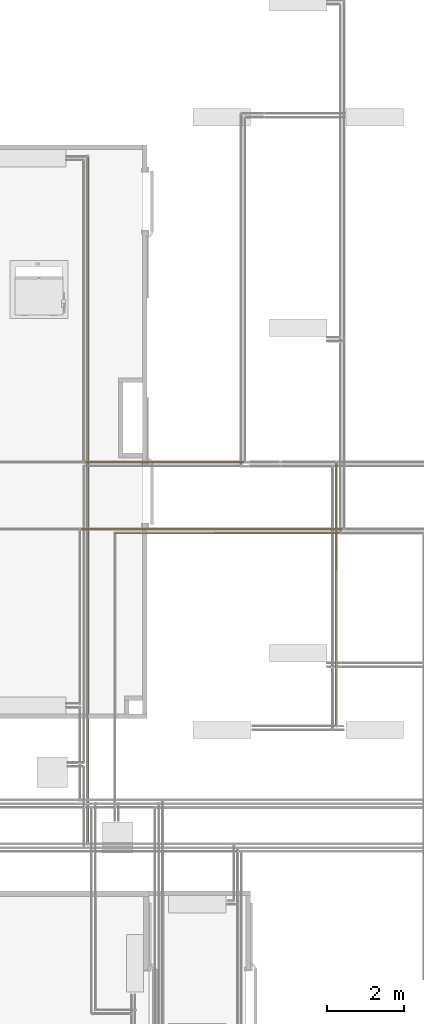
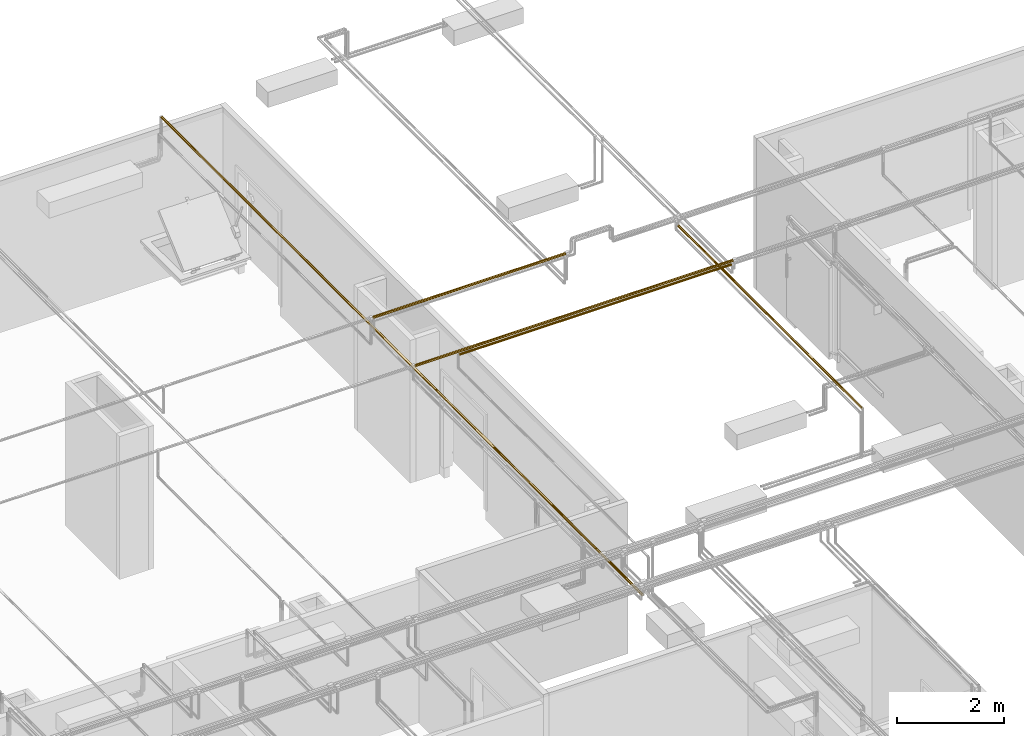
# One storey, part 119 of 652: 5 coverings.
"""IFC2X3 building model written with IfcOpenShell, lengths in millimetres."""

from ifc_helpers import new_model, entity, si_unit, converted_unit, direction, frame, origin, place, context, subcontext, project, spatial, faceted_brep, material, type_object, element, save


model = new_model("IFC2X3")

# Units and contexts
model_context = context("Model", 3, precision=0.01, world=frame((0.0, 0.0, 308426.39999999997)), true_north=direction((6.123233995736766e-17, 1.0)))
plan_context = context("Plan", 3, precision=0.01, world=frame((0.0, 0.0, 308426.39999999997)), true_north=direction((6.123233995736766e-17, 1.0)))
body_context = subcontext(model_context, "Body", "Model", "MODEL_VIEW")
ifc_project = project(units=[si_unit("LENGTHUNIT", "METRE", prefix="MILLI"), si_unit("AREAUNIT", "SQUARE_METRE"), si_unit("VOLUMEUNIT", "CUBIC_METRE"), converted_unit("PLANEANGLEUNIT", "DEGREE", entity("IfcPlaneAngleMeasure", 0.017453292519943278), si_unit("PLANEANGLEUNIT", "RADIAN"), dimensions=[0, 0, 0, 0, 0, 0, 0])], contexts=[model_context, plan_context])

# Site, building, storey
site_placement = place(None, origin())
site = spatial("IfcSite", under=ifc_project, at=site_placement, Name="Default", CompositionType="ELEMENT")
building_placement = place(site_placement, origin())
building = spatial("IfcBuilding", under=site, at=building_placement, CompositionType="ELEMENT")
storey_placement = place(building_placement, frame((0.0, 0.0, 1730.6999999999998)))
storey = spatial("IfcBuildingStorey", under=building, at=storey_placement, Name="EG_Produktion_FFB", CompositionType="ELEMENT", Elevation=1730.6999999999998)

# Coverings
ifc_material = material(Name="Dämmung - Armaflex-Schlauch")
covering_type = type_object("IfcCoveringType", Name="Rohrdämmung außen:Armaflex-Schlauch", PredefinedType="INSULATION")
covering_1_placement = place(storey_placement, frame((33752.698499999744, 69884.87972776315, 3930.120272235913)))
element("IfcCovering", 1, at=covering_1_placement, inside=storey, type_object=covering_type, material=ifc_material, Name="Rohrdämmung außen:Armaflex-Schlauch", ObjectType="Rohrdämmung außen:Armaflex-Schlauch", PredefinedType="INSULATION", context=body_context, shape_type="Brep", body=[
    faceted_brep([(0.0, 1.5952722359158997, -30.120272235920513), (0.0, 4.267032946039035, -23.670071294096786), (0.0, 5.772661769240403, -20.03516176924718), (0.0, 7.861356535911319, -14.99260653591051), (0.0, 9.950051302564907, -9.950051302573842), (0.0, 14.992606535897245, -7.861356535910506), (0.0, 20.035161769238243, -5.772661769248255), (0.0, 25.07771700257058, -3.6839670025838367), (0.0, 30.12027223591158, -1.595272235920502), (0.0, 36.570473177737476, -4.267032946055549), (0.0, 40.20538270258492, -5.772661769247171), (0.0, 45.24793793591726, -7.861356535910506), (0.0, 50.290493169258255, -9.950051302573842), (0.0, 52.379187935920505, -14.99260653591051), (0.0, 54.467882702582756, -20.03516176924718), (0.0, 56.556577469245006, -25.077717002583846), (0.0, 58.645272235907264, -30.120272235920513), (0.0, 56.556577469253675, -35.16282746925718), (0.0, 54.467882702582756, -40.20538270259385), (0.0, 52.379187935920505, -45.24793793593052), (0.0, 50.290493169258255, -50.29049316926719), (0.0, 45.24793793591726, -52.379187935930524), (0.0, 40.20538270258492, -54.467882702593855), (0.0, 35.16282746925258, -56.55657746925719), (0.0, 30.12027223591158, -58.64527223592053), (0.0, 23.670071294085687, -55.97351152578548), (0.0, 20.03516176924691, -54.467882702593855), (0.0, 14.992606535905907, -52.379187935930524), (0.0, 9.950051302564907, -50.29049316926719), (0.0, 7.861356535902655, -45.24793793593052), (0.0, 5.772661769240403, -40.20538270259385), (0.0, 3.683967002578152, -35.16282746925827), (4146.915433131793, 14.992606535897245, -52.37918793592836), (4146.915433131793, 20.035161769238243, -54.467882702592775), (4146.915433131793, 25.07771700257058, -56.55657746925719), (4146.915433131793, 30.12027223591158, -58.645272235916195), (4146.915433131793, 36.57047317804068, -55.9735115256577), (4146.915433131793, 43.02067412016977, -53.30175081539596), (4146.915433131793, 50.290493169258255, -50.29049316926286), (4146.915433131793, 52.379187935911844, -45.24793793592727), (4146.915433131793, 54.467882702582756, -40.205382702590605), (4146.915433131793, 56.556577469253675, -35.16282746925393), (4146.915433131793, 58.645272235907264, -30.120272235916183), (4146.915433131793, 55.973511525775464, -23.670071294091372), (4146.915433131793, 53.301750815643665, -17.21987035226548), (4146.915433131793, 50.290493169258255, -9.95005130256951), (4146.915433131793, 45.24793793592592, -7.861356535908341), (4146.915433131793, 40.20538270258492, -5.772661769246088), (4146.915433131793, 35.16282746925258, -3.683967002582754), (4146.915433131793, 30.12027223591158, -1.5952722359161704), (4146.915433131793, 23.670071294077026, -4.267032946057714), (4146.915433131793, 17.21987035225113, -6.938793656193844), (4146.915433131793, 9.950051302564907, -9.95005130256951), (4146.915433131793, 7.861356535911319, -14.99260653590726), (4146.915433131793, 5.772661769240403, -20.035161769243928), (4146.915433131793, 3.6839670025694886, -25.0777170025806), (4146.915433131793, 1.5952722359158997, -30.120272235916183), (4146.915433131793, 4.267032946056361, -36.57047317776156), (4146.915433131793, 6.938793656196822, -43.02067411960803), (4146.915433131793, 9.950051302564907, -50.29049316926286)], [[[0, 1, 2, 3, 4, 5, 6, 7, 8, 9, 10, 11, 12, 13, 14, 15, 16, 17, 18, 19, 20, 21, 22, 23, 24, 25, 26, 27, 28, 29, 30, 31]], [[32, 33, 34, 35, 36, 37, 38, 39, 40, 41, 42, 43, 44, 45, 46, 47, 48, 49, 50, 51, 52, 53, 54, 55, 56, 57, 58, 59]], [[40, 39, 38, 20, 19, 18, 17, 16, 42, 41]], [[38, 37, 36, 35, 24, 23, 22, 21, 20]], [[56, 0, 31, 30, 29, 28, 59, 58, 57]], [[27, 26, 25, 24, 35, 34, 33, 32, 59, 28]], [[49, 8, 7, 6, 5, 4, 52, 51, 50]], [[3, 2, 1, 0, 56, 55, 54, 53, 52, 4]], [[42, 16, 15, 14, 13, 12, 45, 44, 43]], [[11, 10, 9, 8, 49, 48, 47, 46, 45, 12]]]),
])
covering_2_placement = place(storey_placement, frame((33652.698499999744, 68134.87972776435, 3930.120272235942)))
element("IfcCovering", 2, at=covering_2_placement, inside=storey, type_object=covering_type, material=ifc_material, Name="Rohrdämmung außen:Armaflex-Schlauch", ObjectType="Rohrdämmung außen:Armaflex-Schlauch", PredefinedType="INSULATION", context=body_context, shape_type="Brep", body=[
    faceted_brep([(6834.602999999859, 58.645272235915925, -30.120272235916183), (6834.602999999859, 57.024173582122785, -26.206593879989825), (6834.602999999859, 54.46788270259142, -20.035161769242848), (6834.602999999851, 52.37918793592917, -14.992606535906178), (6834.602999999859, 50.29049316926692, -9.95005130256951), (6834.602999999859, 45.24793793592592, -7.861356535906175), (6834.602999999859, 40.20538270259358, -5.77266176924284), (6834.602999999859, 35.162827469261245, -3.6839670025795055), (6834.602999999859, 30.120272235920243, -1.5952722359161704), (6834.602999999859, 26.206593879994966, -3.2163708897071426), (6834.602999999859, 20.03516176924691, -5.77266176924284), (6834.602999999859, 14.99260653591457, -7.861356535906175), (6834.602999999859, 9.95005130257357, -9.95005130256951), (6834.602999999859, 7.861356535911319, -14.992606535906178), (6834.602999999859, 5.7726617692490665, -20.035161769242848), (6834.602999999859, 3.6839670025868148, -25.077717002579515), (6834.602999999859, 1.5952722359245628, -30.120272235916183), (6834.602999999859, 3.6839670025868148, -35.16282746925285), (6834.602999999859, 5.7726617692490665, -40.20538270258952), (6834.602999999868, 7.861356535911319, -45.24793793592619), (6834.602999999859, 9.95005130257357, -50.29049316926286), (6834.602999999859, 14.992606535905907, -52.37918793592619), (6834.602999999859, 20.03516176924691, -54.46788270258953), (6834.602999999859, 25.077717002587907, -56.55657746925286), (6834.602999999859, 30.120272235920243, -58.645272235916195), (6834.602999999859, 34.033950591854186, -57.02417358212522), (6834.602999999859, 40.20538270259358, -54.46788270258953), (6834.602999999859, 45.24793793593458, -52.37918793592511), (6834.602999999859, 50.29049316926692, -50.29049316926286), (6834.602999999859, 52.37918793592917, -45.24793793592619), (6834.602999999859, 54.46788270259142, -40.20538270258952), (6834.602999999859, 56.556577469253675, -35.16282746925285), (0.0, 45.24793793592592, -52.37918793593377), (0.0, 40.20538270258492, -54.467882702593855), (0.0, 35.16282746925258, -56.556577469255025), (0.0, 30.12027223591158, -58.645272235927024), (0.0, 22.29291552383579, -55.403074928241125), (0.0, 16.121483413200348, -52.84678404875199), (0.0, 9.950051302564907, -50.29049316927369), (0.0, 7.861356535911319, -45.247937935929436), (0.0, 5.7726617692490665, -40.20538270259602), (0.0, 3.6839670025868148, -35.162827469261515), (0.0, 1.5952722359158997, -30.12027223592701), (0.0, 4.837469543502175, -22.29291552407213), (0.0, 7.393760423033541, -16.12148341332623), (0.0, 9.950051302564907, -9.950051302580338), (0.0, 14.992606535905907, -7.861356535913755), (0.0, 20.035161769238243, -5.772661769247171), (0.0, 25.07771700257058, -3.683967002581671), (0.0, 30.12027223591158, -1.595272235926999), (0.0, 37.947628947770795, -4.8374695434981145), (0.0, 44.11906105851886, -7.393760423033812), (0.0, 50.290493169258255, -9.950051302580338), (0.0, 52.37918793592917, -14.992606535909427), (0.0, 54.46788270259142, -20.035161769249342), (0.0, 56.556577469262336, -25.077717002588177), (0.0, 58.645272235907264, -30.12027223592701), (0.0, 55.40307492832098, -37.94762894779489), (0.0, 52.846784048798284, -44.119061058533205), (0.0, 50.290493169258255, -50.29049316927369)], [[[0, 1, 2, 3, 4, 5, 6, 7, 8, 9, 10, 11, 12, 13, 14, 15, 16, 17, 18, 19, 20, 21, 22, 23, 24, 25, 26, 27, 28, 29, 30, 31]], [[32, 33, 34, 35, 36, 37, 38, 39, 40, 41, 42, 43, 44, 45, 46, 47, 48, 49, 50, 51, 52, 53, 54, 55, 56, 57, 58, 59]], [[40, 39, 38, 20, 19, 18, 17, 16, 42, 41]], [[36, 35, 24, 23, 22, 21, 20, 38, 37]], [[33, 32, 59, 28, 27, 26, 25, 24, 35, 34]], [[28, 59, 58, 57, 56, 0, 31, 30, 29]], [[54, 53, 52, 4, 3, 2, 1, 0, 56, 55]], [[4, 52, 51, 50, 49, 8, 7, 6, 5]], [[47, 46, 45, 12, 11, 10, 9, 8, 49, 48]], [[12, 45, 44, 43, 42, 16, 15, 14, 13]]]),
])
covering_3_placement = place(storey_placement, frame((34546.35497776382, 68039.64222776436, 3925.3577722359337)))
element("IfcCovering", 3, at=covering_3_placement, inside=storey, type_object=covering_type, material=ifc_material, Name="Rohrdämmung außen:Armaflex-Schlauch", ObjectType="Rohrdämmung außen:Armaflex-Schlauch", PredefinedType="INSULATION", context=body_context, shape_type="Brep", body=[
    faceted_brep([(5853.995772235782, 49.12027223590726, -25.357772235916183), (5853.995772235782, 47.680849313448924, -21.88269789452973), (5853.995772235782, 45.64033467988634, -16.956459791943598), (5853.995772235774, 43.90036590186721, -12.755803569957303), (5853.995772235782, 42.160397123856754, -8.55514734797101), (5853.995772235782, 37.95974090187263, -6.8151785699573), (5853.995772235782, 33.759084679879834, -5.075209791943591), (5853.995772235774, 29.558428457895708, -3.3352410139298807), (5853.995772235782, 25.35777223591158, -1.5952722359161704), (5853.995772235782, 21.88269789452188, -3.0346951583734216), (5853.995772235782, 16.956459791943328, -5.075209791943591), (5853.995772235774, 12.755803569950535, -6.8151785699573), (5853.995772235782, 8.55514734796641, -8.55514734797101), (5853.995772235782, 6.815178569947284, -12.755803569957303), (5853.995772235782, 5.075209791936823, -16.956459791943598), (5853.995772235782, 3.3352410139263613, -21.15711601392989), (5853.995772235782, 1.5952722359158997, -25.357772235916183), (5853.995772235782, 3.3352410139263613, -29.558428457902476), (5853.995772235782, 5.075209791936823, -33.759084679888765), (5853.995772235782, 6.815178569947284, -37.95974090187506), (5853.995772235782, 8.55514734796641, -42.16039712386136), (5853.995772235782, 12.755803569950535, -43.90036590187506), (5853.995772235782, 16.956459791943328, -45.640334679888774), (5853.995772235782, 21.157116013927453, -47.380303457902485), (5853.995772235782, 25.35777223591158, -49.1202722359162), (5853.995772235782, 29.558428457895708, -47.380303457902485), (5853.995772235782, 33.759084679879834, -45.640334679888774), (5853.995772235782, 37.95974090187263, -43.90036590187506), (5853.995772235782, 42.160397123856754, -42.16039712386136), (5853.995772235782, 43.90036590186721, -37.95974090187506), (5853.995772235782, 45.64033467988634, -33.759084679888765), (5853.995772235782, 47.680849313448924, -28.832846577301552), (1.5952722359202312, 40.928415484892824, -43.308022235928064), (1.5952722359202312, 9.78712898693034, -43.308022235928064), (1.5952722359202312, 6.764379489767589, -39.26743877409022), (1.5952722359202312, 3.7416299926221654, -35.2268553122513), (1.5952722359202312, 2.6684511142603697, -30.292313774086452), (1.5952722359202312, 1.5952722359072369, -25.35777223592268), (1.5952722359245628, 4.474118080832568, -18.407623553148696), (1.5952722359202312, 6.514632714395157, -13.481385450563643), (1.5952722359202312, 8.555147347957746, -8.555147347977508), (1.5952722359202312, 12.755803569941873, -6.815178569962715), (1.5952722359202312, 16.956459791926, -5.075209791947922), (1.5952722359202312, 21.15711601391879, -3.335241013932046), (1.5952722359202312, 25.357772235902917, -1.5952722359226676), (1.5952722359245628, 32.30792091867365, -4.47411808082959), (1.5952722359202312, 37.234159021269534, -6.514632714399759), (1.5952722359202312, 42.16039712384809, -8.555147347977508), (1.5952722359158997, 43.90036590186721, -12.755803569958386), (1.5952722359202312, 45.64033467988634, -16.95645979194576), (1.5952722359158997, 47.3803034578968, -21.15711601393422), (1.5952722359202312, 49.1202722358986, -25.35777223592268), (1.5952722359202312, 48.047093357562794, -30.292313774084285), (1.5952722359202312, 46.97391447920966, -35.22685531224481), (1.5952722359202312, 43.95116498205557, -39.267438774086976), (5.907088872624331, 17.047730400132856, -47.619838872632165), (3.751180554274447, 13.417429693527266, -45.46393055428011), (6.65730555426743, 21.202751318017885, -48.37005555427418), (7.407522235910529, 25.357772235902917, -49.1202722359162), (6.657305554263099, 29.51279315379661, -48.37005555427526), (5.907088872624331, 33.66781407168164, -47.61983887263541), (3.751180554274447, 37.298114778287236, -45.46393055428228)], [[[0, 1, 2, 3, 4, 5, 6, 7, 8, 9, 10, 11, 12, 13, 14, 15, 16, 17, 18, 19, 20, 21, 22, 23, 24, 25, 26, 27, 28, 29, 30, 31]], [[32, 33, 34, 35, 36, 37, 38, 39, 40, 41, 42, 43, 44, 45, 46, 47, 48, 49, 50, 51, 52, 53, 54]], [[37, 17, 16]], [[22, 55, 23]], [[17, 37, 36]], [[36, 18, 17]], [[33, 20, 34]], [[21, 33, 56]], [[56, 55, 22]], [[57, 58, 24]], [[35, 34, 19]], [[34, 20, 19]], [[35, 19, 18]], [[23, 55, 57]], [[20, 33, 21]], [[36, 35, 18]], [[56, 22, 21]], [[57, 24, 23]], [[58, 59, 24]], [[52, 51, 31]], [[25, 59, 60]], [[53, 29, 54]], [[61, 26, 60]], [[28, 32, 54]], [[53, 52, 30]], [[30, 52, 31]], [[24, 59, 25]], [[54, 29, 28]], [[51, 0, 31]], [[53, 30, 29]], [[26, 61, 27]], [[32, 27, 61]], [[25, 60, 26]], [[27, 32, 28]], [[49, 48, 47, 4, 3, 2, 1, 0, 51, 50]], [[4, 47, 46, 45, 44, 8, 7, 6, 5]], [[42, 41, 40, 12, 11, 10, 9, 8, 44, 43]], [[12, 40, 39, 38, 37, 16, 15, 14, 13]], [[33, 32, 61, 60, 59, 58, 57, 55, 56]]]),
])
covering_4_placement = place(storey_placement, frame((33793.05472776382, 59973.37172775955, 3573.054727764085)))
element("IfcCovering", 4, at=covering_4_placement, inside=storey, type_object=covering_type, material=ifc_material, Name="Rohrdämmung außen:Armaflex-Schlauch", ObjectType="Rohrdämmung außen:Armaflex-Schlauch", PredefinedType="INSULATION", context=body_context, shape_type="Brep", body=[
    faceted_brep([(13.501404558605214, 1.5952722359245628, 7.163904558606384), (17.982693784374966, 1.5952722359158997, 5.30769378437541), (21.880364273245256, 1.5952722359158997, 3.693225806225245), (26.94527223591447, 1.5952722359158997, 1.595272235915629), (32.01018019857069, 1.5952722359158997, 3.693225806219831), (35.90785068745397, 1.5952722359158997, 5.30769378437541), (40.38913991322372, 1.5952722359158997, 7.163904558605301), (44.87042913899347, 1.5952722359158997, 9.020115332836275), (46.7266399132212, 1.5952722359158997, 13.501404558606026), (48.58285068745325, 1.5952722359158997, 17.982693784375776), (50.197318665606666, 1.5952722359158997, 21.880364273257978), (52.29527223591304, 1.5952722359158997, 26.94527223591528), (50.40858185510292, 1.5952722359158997, 32.12427884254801), (48.52189147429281, 1.5952722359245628, 37.30328544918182), (46.355127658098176, 1.5952722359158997, 43.25109979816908), (38.8451607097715, 1.5952722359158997, 47.581686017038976), (31.335193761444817, 1.5952722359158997, 51.912272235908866), (22.55535071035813, 1.5952722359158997, 51.91227223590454), (15.045383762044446, 1.5952722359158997, 47.581686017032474), (7.5354168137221, 1.5952722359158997, 43.25109979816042), (6.050380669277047, 1.5952722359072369, 39.174642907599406), (4.565344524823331, 1.5952722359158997, 35.09818601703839), (3.0803083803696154, 1.5952722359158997, 31.021729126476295), (1.5952722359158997, 1.5952722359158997, 26.94527223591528), (3.693225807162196, 1.5952722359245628, 21.880364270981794), (5.791179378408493, 1.5952722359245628, 16.815456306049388), (9.020115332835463, 1.5952722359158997, 9.020115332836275), (1.5952722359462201, 17909.042522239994, 26.945272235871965), (3.4514830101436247, 17909.042522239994, 31.426561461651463), (5.30769378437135, 17909.042522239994, 35.90785068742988), (7.163904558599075, 17909.042522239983, 40.38913991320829), (9.020115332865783, 17909.042522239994, 44.870429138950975), (13.501404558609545, 17909.042522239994, 46.72663991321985), (17.98269378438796, 17909.042522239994, 48.58285068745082), (21.88036427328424, 17909.04252224, 50.1973186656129), (26.94527223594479, 17909.042522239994, 52.295272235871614), (32.01018019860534, 17909.042522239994, 50.1973186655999), (35.907850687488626, 17909.042522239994, 48.58285068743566), (40.389139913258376, 17909.042522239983, 46.726639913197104), (44.87042913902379, 17909.042522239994, 44.870429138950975), (46.72663991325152, 17909.042522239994, 40.38913991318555), (48.58285068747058, 17909.042522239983, 35.907850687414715), (50.197318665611, 17909.04252224, 32.01018019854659), (52.29527223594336, 17909.042522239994, 26.945272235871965), (50.810236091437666, 17909.042522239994, 22.86881534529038), (49.325199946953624, 17909.042522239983, 18.79235845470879), (47.84016380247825, 17909.042522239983, 14.715901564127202), (46.35512765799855, 17909.042522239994, 10.639444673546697), (38.84516070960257, 17909.04252224, 6.308858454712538), (31.335193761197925, 17909.042522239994, 1.978272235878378), (22.555350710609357, 17909.042522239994, 1.9782722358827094), (15.045383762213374, 17909.042522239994, 6.308858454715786), (7.535416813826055, 17909.042522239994, 10.63944467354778), (6.050380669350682, 17909.042522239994, 14.715901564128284), (4.565344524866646, 17909.042522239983, 18.792358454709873), (3.481962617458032, 17909.04252224, 21.766265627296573), (6.234510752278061, 6039.042934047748, 12.327240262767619), (2.9868688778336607, 8084.464428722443, 18.661709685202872), (19.27700332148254, 6917.033497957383, 2.782901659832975), (1.5952722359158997, 12283.344224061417, 26.94527223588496), (12.861566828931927, 8141.626916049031, 5.867517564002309), (1.5952722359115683, 6657.64592588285, 26.945272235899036), (5.143663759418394, 12525.708274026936, 14.010344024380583), (1.5952722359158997, 5627.293565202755, 26.945272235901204), (9.231114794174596, 7211.835203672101, 8.81157084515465), (26.94527223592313, 6657.245710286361, 1.595272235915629), (8.988941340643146, 11971.896445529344, 9.051343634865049), (24.741973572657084, 17908.75545375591, 1.6912037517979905), (26.94527223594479, 17908.65952224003, 1.595272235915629), (1.5952722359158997, 8955.318897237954, 26.945272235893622), (49.39602435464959, 9644.485177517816, 15.173006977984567), (29.148570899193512, 17908.75545375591, 1.6912037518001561), (35.60342787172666, 9683.363884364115, 3.1196800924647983), (46.54943291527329, 6226.037990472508, 10.873577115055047), (43.22921728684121, 10227.45519357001, 7.517054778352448), (46.77839700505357, 12409.353425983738, 11.156996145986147), (51.59441100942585, 11902.265490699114, 21.0256052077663), (52.29527223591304, 12282.635028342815, 26.945272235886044), (52.29527223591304, 8954.514357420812, 26.945272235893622), (52.29527223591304, 6657.829130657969, 26.945272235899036), (50.903675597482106, 6532.93331238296, 35.22883477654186), (44.97692326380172, 10732.538157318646, 44.763298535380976), (41.27295815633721, 9459.569398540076, 47.85794581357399), (44.966643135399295, 5733.822872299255, 44.773695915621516), (34.61354115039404, 10688.95324220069, 51.10764281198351), (48.023026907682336, 9431.312522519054, 41.028977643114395), (26.945272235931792, 11253.3748583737, 52.29527223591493), (29.1485708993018, 1.8823407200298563, 52.199340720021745), (26.94527223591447, 1.9782722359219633, 52.29527223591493), (2.3130979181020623, 7291.306231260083, 32.935137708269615), (18.28711660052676, 8227.273908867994, 50.77086437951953), (10.661327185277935, 7683.182600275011, 46.37348969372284), (24.741973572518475, 1.8823407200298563, 52.19934072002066), (7.112147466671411, 5501.284368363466, 42.733548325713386), (7.341111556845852, 11684.59980411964, 43.016967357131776), (4.494520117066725, 8266.152616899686, 38.71753749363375)], [[[0, 1, 2, 3, 4, 5, 6, 7, 8, 9, 10, 11, 12, 13, 14, 15, 16, 17, 18, 19, 20, 21, 22, 23, 24, 25, 26]], [[27, 28, 29, 30, 31, 32, 33, 34, 35, 36, 37, 38, 39, 40, 41, 42, 43, 44, 45, 46, 47, 48, 49, 50, 51, 52, 53, 54, 55]], [[56, 25, 57]], [[58, 2, 1]], [[55, 54, 57]], [[59, 27, 55]], [[58, 1, 60]], [[57, 24, 61]], [[62, 54, 53, 52]], [[24, 23, 63, 61]], [[25, 56, 26]], [[56, 64, 26]], [[62, 56, 57]], [[58, 50, 65]], [[51, 60, 66]], [[25, 24, 57]], [[58, 51, 50]], [[62, 66, 56]], [[67, 68, 65]], [[50, 67, 65]], [[64, 0, 26]], [[57, 61, 69, 59]], [[66, 62, 52]], [[51, 66, 52]], [[64, 66, 60]], [[65, 3, 2]], [[58, 60, 51]], [[65, 2, 58]], [[60, 1, 0]], [[64, 60, 0]], [[57, 54, 62]], [[59, 55, 57]], [[56, 66, 64]], [[70, 10, 9, 8]], [[65, 71, 72]], [[48, 72, 49]], [[72, 71, 49]], [[73, 6, 74]], [[75, 74, 47]], [[45, 76, 70]], [[72, 48, 74]], [[74, 75, 73]], [[48, 47, 74]], [[65, 68, 71]], [[8, 7, 73]], [[72, 4, 65]], [[70, 75, 46]], [[76, 43, 77, 78]], [[4, 72, 6, 5]], [[4, 3, 65]], [[10, 78, 79, 11]], [[6, 72, 74]], [[46, 45, 70]], [[73, 75, 70]], [[8, 73, 70]], [[6, 73, 7]], [[75, 47, 46]], [[76, 45, 44, 43]], [[10, 70, 76]], [[10, 76, 78]], [[42, 41, 80]], [[81, 82, 83]], [[36, 84, 37]], [[12, 79, 80]], [[81, 83, 85]], [[84, 82, 37]], [[13, 85, 14]], [[16, 86, 87]], [[40, 39, 81]], [[15, 84, 16]], [[13, 80, 85]], [[80, 79, 78, 77]], [[15, 14, 83]], [[12, 80, 13]], [[12, 11, 79]], [[77, 43, 42]], [[81, 39, 38]], [[36, 86, 84]], [[86, 88, 87]], [[15, 82, 84]], [[36, 35, 86]], [[16, 84, 86]], [[85, 41, 40]], [[15, 83, 82]], [[80, 41, 85]], [[77, 42, 80]], [[14, 85, 83]], [[40, 81, 85]], [[38, 37, 82]], [[81, 38, 82]], [[86, 35, 34]], [[63, 22, 89]], [[17, 90, 18]], [[91, 19, 18]], [[90, 34, 33, 32]], [[17, 92, 90]], [[93, 94, 95]], [[92, 88, 86]], [[93, 19, 91]], [[31, 94, 32]], [[90, 91, 18]], [[94, 30, 95]], [[90, 92, 86]], [[90, 32, 91]], [[28, 27, 59, 69]], [[89, 29, 28]], [[86, 34, 90]], [[95, 20, 93]], [[89, 21, 95]], [[94, 93, 91]], [[28, 69, 89]], [[32, 94, 91]], [[30, 29, 95]], [[20, 95, 21]], [[20, 19, 93]], [[89, 69, 61, 63]], [[89, 95, 29]], [[94, 31, 30]], [[22, 63, 23]], [[22, 21, 89]], [[92, 17, 16, 87, 88]], [[67, 50, 49, 71, 68]]]),
])
covering_5_placement = place(storey_placement, frame((40293.05472776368, 63048.37172776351, 3726.9452722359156)))
element("IfcCovering", 5, at=covering_5_placement, inside=storey, type_object=covering_type, material=ifc_material, Name="Rohrdämmung außen:Armaflex-Schlauch", ObjectType="Rohrdämmung außen:Armaflex-Schlauch", PredefinedType="INSULATION", context=body_context, shape_type="Brep", body=[
    faceted_brep([(1.5952722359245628, 6841.661272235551, -26.945272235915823), (4.036035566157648, 6841.66127223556, -20.24532319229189), (5.785726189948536, 6841.661272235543, -15.442383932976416), (7.535416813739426, 6841.661272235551, -10.639444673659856), (15.045383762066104, 6841.661272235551, -6.308858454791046), (22.555350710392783, 6841.661272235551, -1.9782722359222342), (31.33519376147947, 6841.661272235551, -1.9782722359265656), (38.84516070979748, 6841.661272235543, -6.308858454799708), (46.35512765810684, 6841.661272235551, -10.639444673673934), (47.840163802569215, 6841.661272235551, -14.715901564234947), (49.32519994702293, 6841.661272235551, -18.79235845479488), (50.810236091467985, 6841.661272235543, -22.86881534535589), (52.2952722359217, 6841.661272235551, -26.945272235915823), (50.439061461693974, 6841.661272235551, -31.426561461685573), (48.58285068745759, 6841.661272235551, -35.90785068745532), (46.72663991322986, 6841.661272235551, -40.38913991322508), (44.870429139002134, 6841.661272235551, -44.87042913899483), (40.389139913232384, 6841.661272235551, -46.726639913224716), (35.907850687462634, 6841.661272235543, -48.58285068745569), (31.426561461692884, 6841.661272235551, -50.43906146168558), (26.94527223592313, 6841.661272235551, -52.295272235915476), (22.46398301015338, 6841.661272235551, -50.43906146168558), (17.982693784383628, 6841.661272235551, -48.58285068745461), (13.501404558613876, 6841.66127223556, -46.726639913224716), (9.020115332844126, 6841.661272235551, -44.87042913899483), (7.163904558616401, 6841.661272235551, -40.38913991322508), (5.307693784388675, 6841.661272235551, -35.90785068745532), (3.4514830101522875, 6841.661272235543, -31.426561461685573), (22.555350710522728, 1.5952722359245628, -51.91227223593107), (31.3351937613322, 1.5952722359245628, -51.91227223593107), (38.84516070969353, 1.5952722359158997, -47.58168601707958), (46.35512765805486, 1.5952722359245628, -43.2510997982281), (48.10481828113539, 1.5952722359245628, -38.448160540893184), (49.85450890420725, 1.5952722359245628, -33.645221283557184), (52.29527223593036, 1.5952722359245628, -26.94527223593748), (50.439061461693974, 1.5952722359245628, -22.463983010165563), (48.58285068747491, 1.5952722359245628, -17.982693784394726), (46.72663991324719, 1.5952722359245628, -13.501404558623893), (44.8704291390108, 1.5952722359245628, -9.020115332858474), (40.389139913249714, 1.5952722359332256, -7.163904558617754), (35.90785068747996, 1.5952722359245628, -5.307693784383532), (31.426561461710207, 1.5952722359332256, -3.4514830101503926), (26.945272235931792, 1.5952722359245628, -1.5952722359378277), (22.463983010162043, 1.5952722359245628, -3.451483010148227), (17.982693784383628, 1.5952722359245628, -5.3076937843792), (13.501404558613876, 1.5952722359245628, -7.163904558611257), (9.020115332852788, 1.5952722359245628, -9.020115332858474), (7.1639045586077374, 1.5952722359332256, -13.501404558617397), (5.307693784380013, 1.5952722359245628, -17.982693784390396), (3.4514830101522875, 1.5952722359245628, -22.463983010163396), (1.5952722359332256, 1.5952722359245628, -26.94527223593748), (2.8156539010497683, 1.5952722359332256, -30.29524675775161), (4.565344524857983, 1.5952722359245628, -35.09818601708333), (6.050380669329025, 1.5952722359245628, -39.174642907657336), (7.535416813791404, 1.5952722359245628, -43.251099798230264), (15.045383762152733, 1.5952722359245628, -47.58168601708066), (29.148570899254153, 1.8823407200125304, -52.19934072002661), (26.945272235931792, 1.9782722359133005, -52.295272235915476), (24.741973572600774, 1.8823407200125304, -52.1993407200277), (24.741973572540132, 6841.374203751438, -1.6912037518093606), (26.94527223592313, 6841.278272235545, -1.5952722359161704), (29.148570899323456, 6841.374203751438, -1.6912037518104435)], [[[0, 1, 2, 3, 4, 5, 6, 7, 8, 9, 10, 11, 12, 13, 14, 15, 16, 17, 18, 19, 20, 21, 22, 23, 24, 25, 26, 27]], [[28, 29, 30, 31, 32, 33, 34, 35, 36, 37, 38, 39, 40, 41, 42, 43, 44, 45, 46, 47, 48, 49, 50, 51, 52, 53, 54, 55]], [[34, 33, 13]], [[30, 18, 17, 16]], [[33, 14, 13]], [[31, 15, 32]], [[30, 29, 18]], [[34, 13, 12]], [[20, 56, 57]], [[19, 18, 29]], [[14, 33, 32]], [[30, 16, 31]], [[56, 19, 29]], [[19, 56, 20]], [[15, 31, 16]], [[15, 14, 32]], [[28, 22, 21]], [[53, 52, 26]], [[21, 58, 28]], [[22, 28, 55]], [[53, 26, 25]], [[51, 50, 0]], [[52, 27, 26]], [[25, 54, 53]], [[55, 24, 23, 22]], [[27, 52, 51]], [[58, 20, 57]], [[24, 55, 54]], [[24, 54, 25]], [[51, 0, 27]], [[20, 58, 21]], [[3, 47, 46]], [[49, 0, 50]], [[47, 2, 48]], [[0, 49, 1]], [[43, 42, 59]], [[49, 48, 1]], [[42, 60, 59]], [[47, 3, 2]], [[5, 43, 59]], [[44, 5, 4]], [[4, 46, 45, 44]], [[5, 44, 43]], [[2, 1, 48]], [[46, 4, 3]], [[41, 40, 6]], [[7, 40, 39, 38]], [[9, 36, 10]], [[42, 61, 60]], [[12, 11, 34]], [[10, 35, 11]], [[34, 11, 35]], [[36, 9, 37]], [[37, 9, 8]], [[40, 7, 6]], [[7, 38, 8]], [[61, 41, 6]], [[41, 61, 42]], [[37, 8, 38]], [[35, 10, 36]], [[5, 59, 60, 61, 6]], [[28, 58, 57, 56, 29]]]),
])

save(model, "model.ifc")
